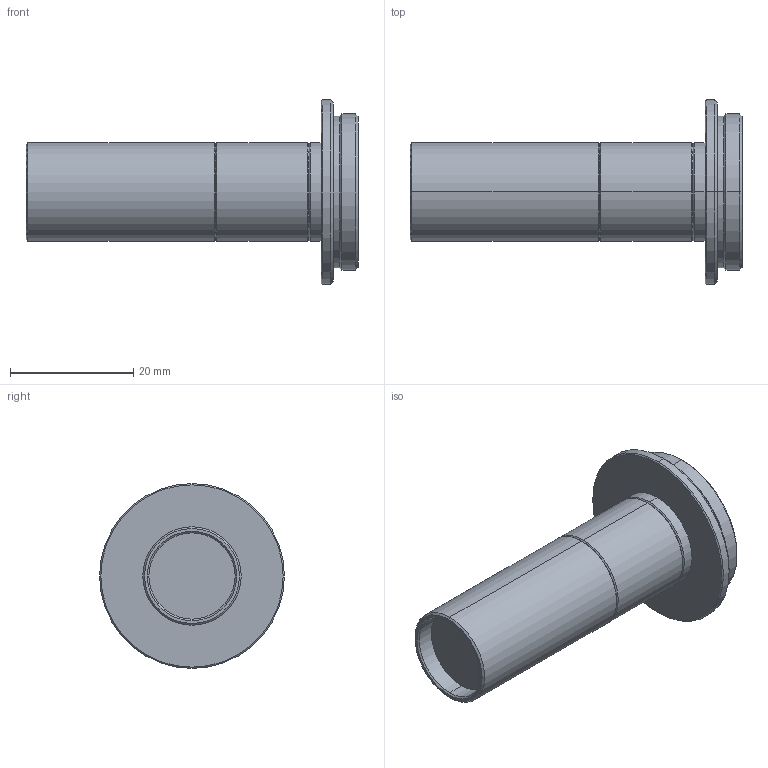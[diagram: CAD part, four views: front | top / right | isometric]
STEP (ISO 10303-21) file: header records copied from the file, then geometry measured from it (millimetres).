
FILE_DESCRIPTION (( 'STEP AP203' ), '1' );
FILE_NAME ('VS-MC075-70.STEP', '2019-06-19T06:27:58', ( '' ), ( '' ), 'SwSTEP 2.0', 'SolidWorks 2018', '' );
FILE_SCHEMA (( 'CONFIG_CONTROL_DESIGN' ));
Length unit declared in the file: millimetre
Products named in the file (1): VS-MC075-70
Bounding box: 53.91 x 30 x 30 mm (x, y, z)
Volume: 10818.8 mm3; surface area: 4846.5 mm2
Topology: 1 solids, 1 shells, 52 faces, 102 edges, 58 vertices
Faces by surface type: cone 26, cylinder 18, plane 8
Entity records: 1401 total; most frequent: DIRECTION 266, CARTESIAN_POINT 213, ORIENTED_EDGE 204, AXIS2_PLACEMENT_3D 111, EDGE_CURVE 102, VERTEX_POINT 58, EDGE_LOOP 58, CIRCLE 58
